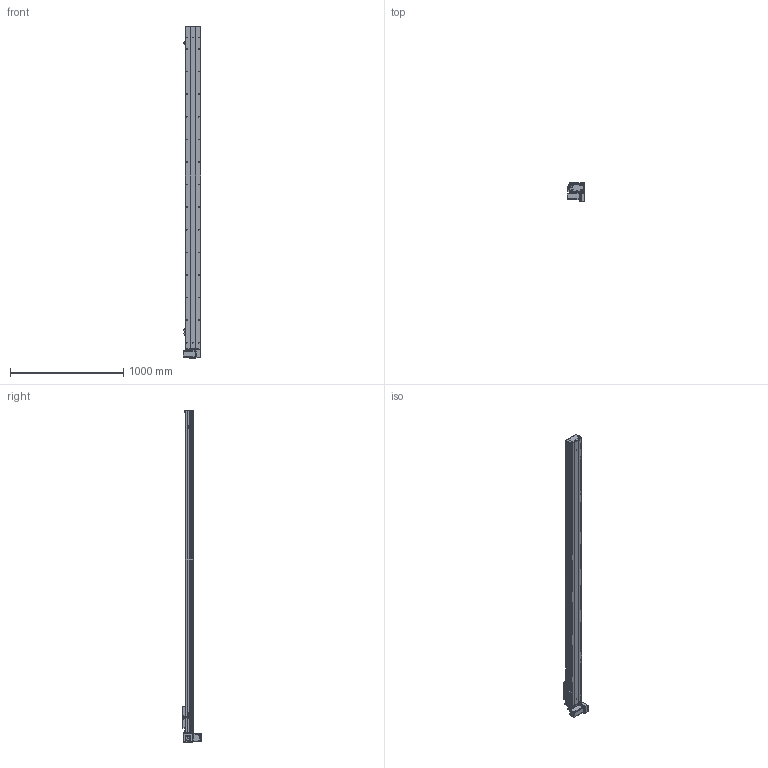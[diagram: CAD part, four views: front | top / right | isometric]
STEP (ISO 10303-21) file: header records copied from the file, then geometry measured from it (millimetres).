
FILE_DESCRIPTION (( 'STEP AP203' ), '1' );
FILE_NAME ('Y135CB-D90-S2550-BM-P400W.STEP', '2020-02-19T02:30:24', ( '微软用户' ), ( '微软中国' ), 'SwSTEP 2.0', 'SolidWorks 2017', '' );
FILE_SCHEMA (( 'CONFIG_CONTROL_DESIGN' ));
Length unit declared in the file: millimetre
Products named in the file (18): Y135CB-D90-S2550-BM-P400W; C-雄赽釱--; 0B-萇儂楊擘啣; Y10B--々湍喘謫眊--666; san松下电机400不带刹车----; 00B-俋欶BM--; 5CB --掛极耜裔啣-; C-詩湍揤踡え-陔; Y135CB-耜裔; 135CB--詩湍-CE; 135CB---遴掛极.-; Y100-135俋离換覜ん--; 35CB---喘謫眊楊擘啣; Y135C-陔俋离換覜結え-; 0B-埴倛裔啣; Y10B-耜蚾蟀諉啣----; 5C--俋欶; 0B-源倛裔啣
Assembly tree (21 placements, depth 2):
  Y135CB-D90-S2550-BM-P400W
    Y135CB-耜裔
    135CB---遴掛极.-
    35CB---喘謫眊楊擘啣
    0B-埴倛裔啣
    0B-源倛裔啣
    0B-萇儂楊擘啣
    san松下电机400不带刹车----
    5CB --掛极耜裔啣-  x2
    C-詩湍揤踡え-陔  x2
    135CB--詩湍-CE
    Y100-135俋离換覜ん--  x3
    Y135C-陔俋离換覜結え-
    5C--俋欶
    C-雄赽釱--
    Y10B--々湍喘謫眊--666
    00B-俋欶BM--
    Y10B-耜蚾蟀諉啣----
Bounding box: 157 x 163.3 x 2938 mm (x, y, z)
Volume: 8411608.2 mm3; surface area: 3332155.4 mm2
Topology: 21 solids, 21 shells, 977 faces, 2671 edges, 1770 vertices
Faces by surface type: cylinder 505, plane 456, cone 16
Entity records: 30965 total; most frequent: CARTESIAN_POINT 5164, DIRECTION 5147, ORIENTED_EDGE 4818, EDGE_CURVE 2409, AXIS2_PLACEMENT_3D 1889, VERTEX_POINT 1598, VECTOR 1369, LINE 1369
